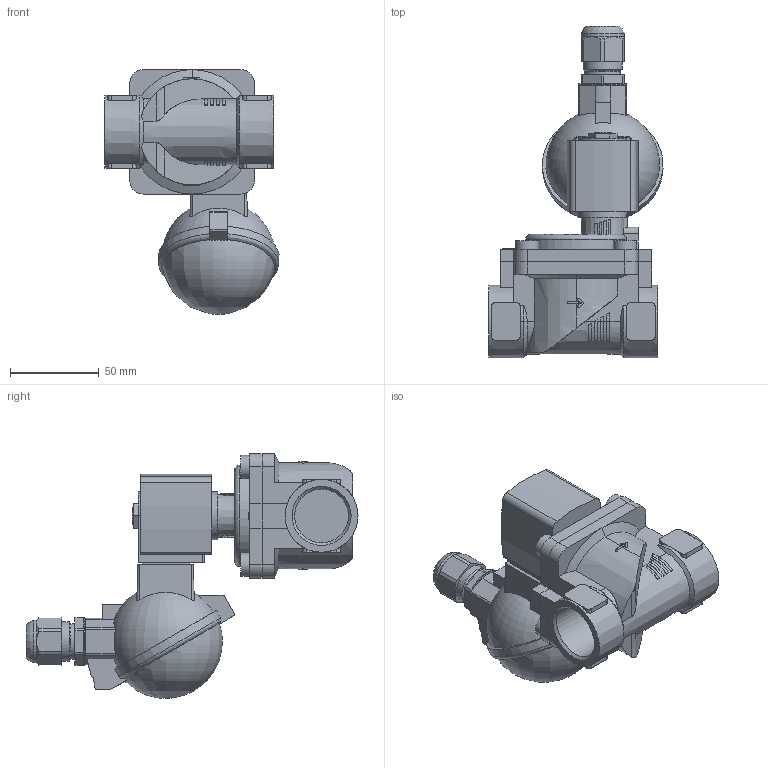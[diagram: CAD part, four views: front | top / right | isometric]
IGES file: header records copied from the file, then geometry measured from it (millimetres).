
Start section: Data from Parasolid IGES Translator 26.0.171, Copyright(c) 2006 Siemens PLM Software. All Rights Reserved.
Global section: file name: 6281-382479-2_2-Way_Solenoid_Valve__Servo-assisted__General_Purpose.igs; native system: By Siemens PLM Incorporated; preprocessor: XPlus GENERIC/IGES 26.0.171; author: Noname; organization: Noname; date: 20240827.142051; units: millimetre
Bounding box: 97.93 x 186.8 x 137.7 mm (x, y, z)
Surface area: 78943.7 mm2 (no closed solid volume)
Topology: 0 solids, 0 shells, 403 faces, 2163 edges, 2130 vertices
Faces by surface type: extrusion 239, revolution 164
